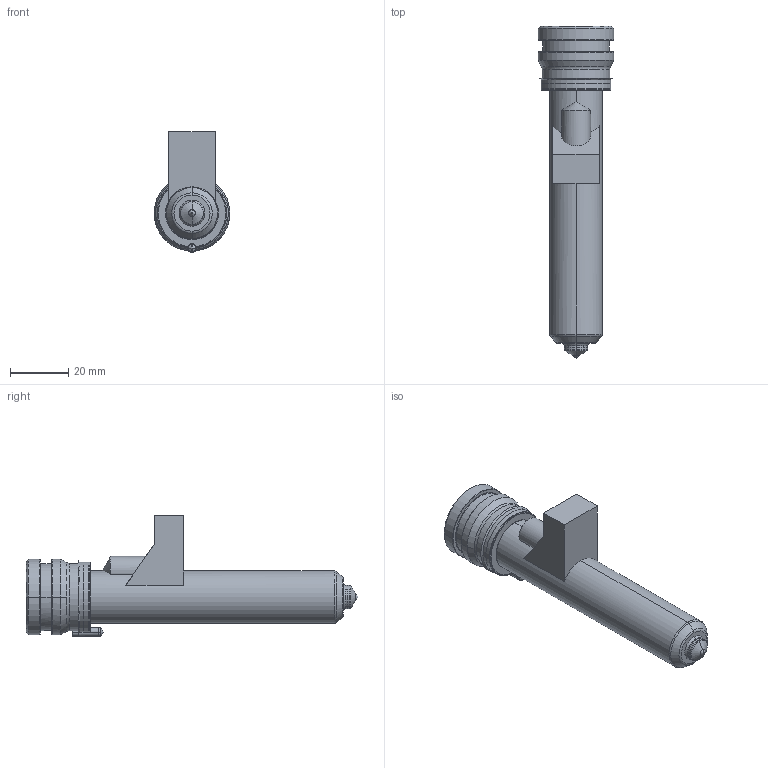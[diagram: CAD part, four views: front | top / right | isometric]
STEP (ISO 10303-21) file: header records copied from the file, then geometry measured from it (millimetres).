
FILE_DESCRIPTION((''),'2;1');
FILE_NAME('MPN-08-24-TS8-096-M','2026-02-05T13:24:28',('UPTIO'),('Thermoplay S.p.A.'),'CREO PARAMETRIC BY PTC INC, 2023494','CREO PARAMETRIC BY PTC INC, 2023494','');
FILE_SCHEMA(('CONFIG_CONTROL_DESIGN','SHAPE_APPEARANCE_LAYERS_GROUPS'));
Length unit declared in the file: millimetre
Products named in the file (1): MPN-08-24-TS8-096-M
Bounding box: 26 x 114 x 41.5 mm (x, y, z)
Volume: 22847.8 mm3; surface area: 29730.3 mm2
Topology: 2 solids, 5 shells, 532 faces, 1371 edges, 843 vertices
Faces by surface type: cylinder 172, plane 146, bspline 77, torus 62, cone 58, sphere 11, extrusion 6
Entity records: 28047 total; most frequent: CARTESIAN_POINT 12408, ORIENTED_EDGE 2720, DIRECTION 2456, EDGE_CURVE 1360, AXIS2_PLACEMENT_3D 960, VERTEX_POINT 843, EDGE_LOOP 561, VECTOR 536
